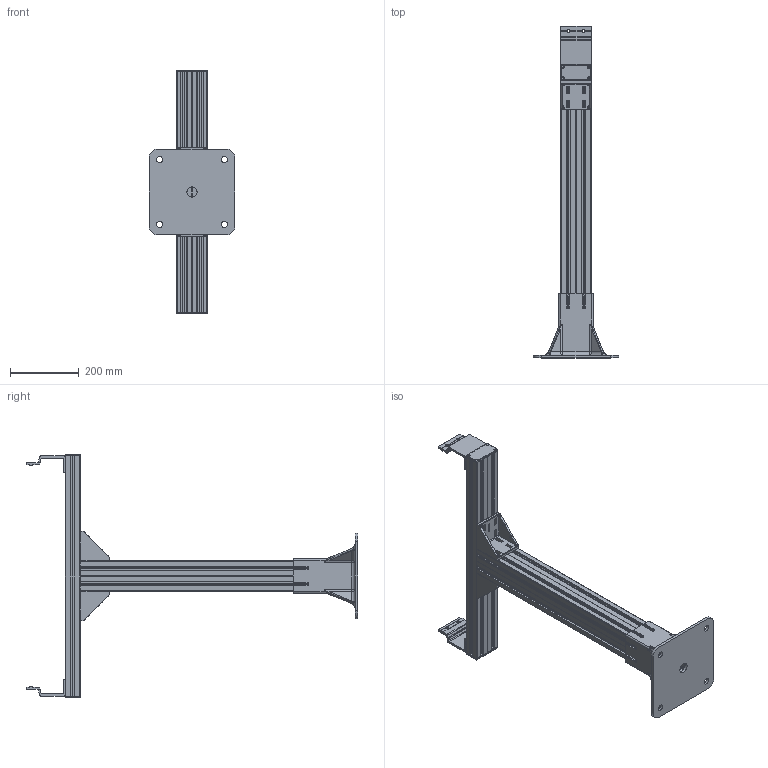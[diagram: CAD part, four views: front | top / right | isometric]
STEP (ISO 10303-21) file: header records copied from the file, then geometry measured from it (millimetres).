
FILE_DESCRIPTION (( 'STEP AP214' ), '1' );
FILE_NAME ('F2-2400-PC88.STEP', '2010-03-11T09:03:54', ( '.' ), ( '' ), 'SwSTEP 2.0', 'SolidWorks 2009', '' );
FILE_SCHEMA (( 'AUTOMOTIVE_DESIGN' ));
Length unit declared in the file: millimetre
Products named in the file (1): F2-2400-PC88
Bounding box: 250 x 966 x 709 mm (x, y, z)
Surface area: 1065290.5 mm2 (no closed solid volume)
Topology: 0 solids, 35 shells, 532 faces, 2681 edges, 2113 vertices
Faces by surface type: plane 290, cylinder 202, bspline 32, sphere 8
Entity records: 36775 total; most frequent: CARTESIAN_POINT 10527, DIRECTION 4183, ORIENTED_EDGE 3595, EDGE_CURVE 2657, VERTEX_POINT 2113, LINE 1677, VECTOR 1677, AXIS2_PLACEMENT_3D 1253
